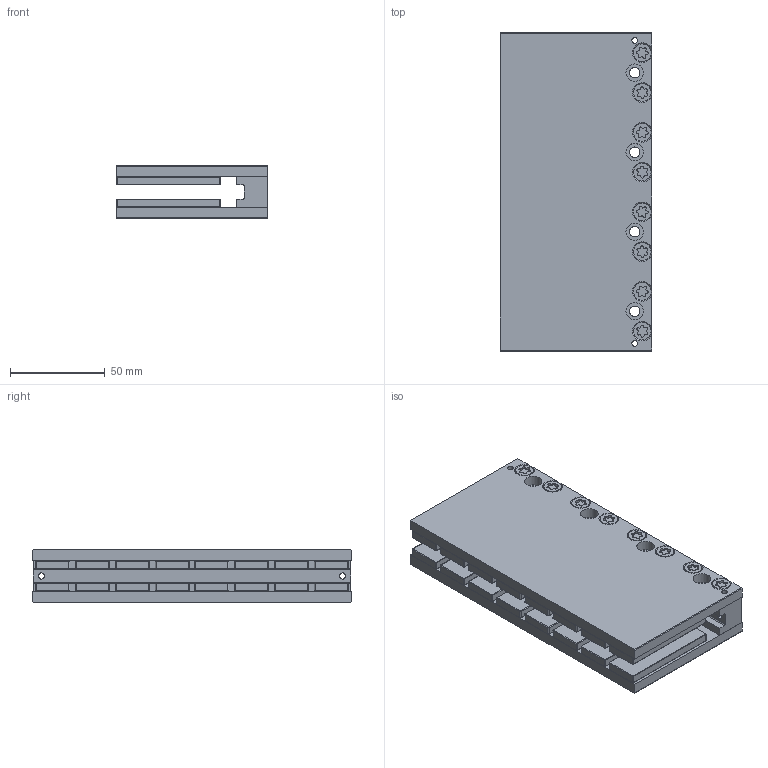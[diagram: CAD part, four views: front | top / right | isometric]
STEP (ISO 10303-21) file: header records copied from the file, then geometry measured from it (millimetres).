
FILE_DESCRIPTION( ( '-' ), '1' );
FILE_NAME( 'C:/Users/peikelboom/Desktop/STEP Files/Ironless/UL/Iron Less_UL 168 mm_MagnetYoke 160607.stp', '20-04-2016', ( 'P.Eikelboom' ), ( 'Technotion' ), 'PSStep 16.0.42', '-', ' ' );
FILE_SCHEMA( ( 'AUTOMOTIVE_DESIGN { 1 0 10303 214 1 1 1 1 }' ) );
Length unit declared in the file: millimetre
Products named in the file (1): 4022 363 82584_080709
Bounding box: 80 x 167.92 x 28.4 mm (x, y, z)
Surface area: 79324.4 mm2 (no closed solid volume)
Topology: 0 solids, 1008 shells, 1008 faces, 4881 edges, 4750 vertices
Faces by surface type: cylinder 458, plane 366, bspline 128, cone 56
Full cylindrical faces by diameter (mm): 3 x2, 3.242 x2, 4.2 x8, 5 x16, 5.5 x20, 9.2 x8, 9.3 x16
Entity records: 57936 total; most frequent: CARTESIAN_POINT 12817, DIRECTION 8558, ORIENTED_EDGE 4664, EDGE_CURVE 4664, VERTEX_POINT 4664, AXIS2_PLACEMENT_3D 3049, LINE 2460, VECTOR 2460
